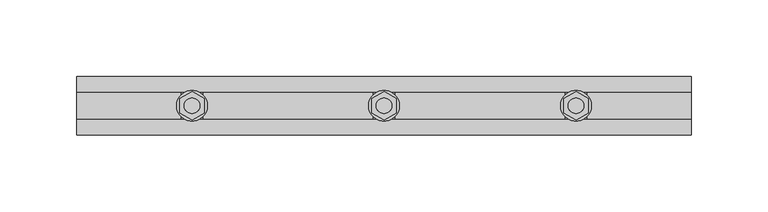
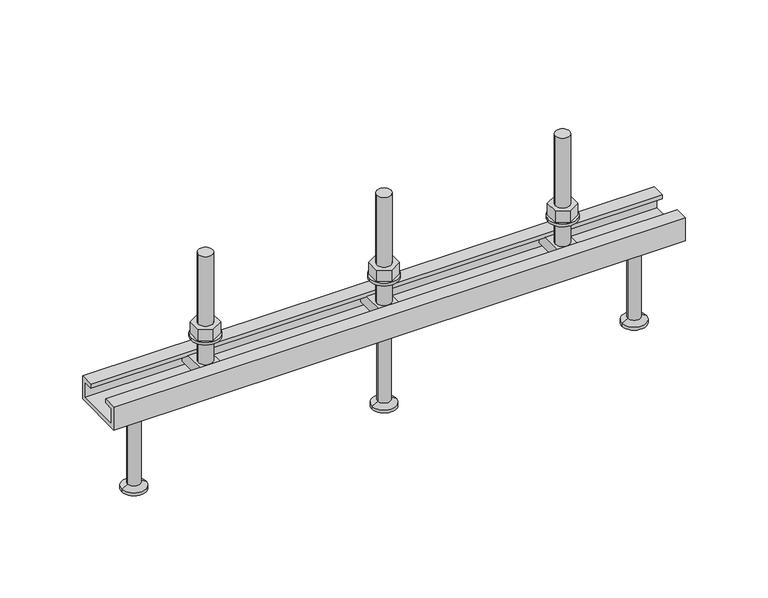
"""IFC4 building model written with IfcOpenShell, lengths in millimetres: fastener geometry, JTA-K JORDAHL® AnchorChannels : JTA-K L=400 mm."""

from ifc_helpers import new_model, si_unit, point, frame, frame_2d, origin, place, context, project, spatial, polyline, circle_curve, trimmed, segment, composite_curve, outline, extrude, source, transform, mapped, element, save
from ifc_brep_helpers import plane_surface, cylinder_surface, revolved_surface, advanced_brep


def fastener_7abe190a(model_context):
    return source(origin(), model_context, "Body", "SolidModel", [
        extrude(outline(polyline([(200.0, 9.2376043), (208.0, 4.6188022), (208.0, -4.6188022), (200.0, -9.2376043), (192.0, -4.6188022), (192.0, 4.6188022), (200.0, 9.2376043)]), holes=[composite_curve([segment(trimmed(circle_curve(frame_2d((200.0, 0.0)), 5.0), [point((195.0, 0.0))], [point((205.0, 0.0))], True, "CARTESIAN"), True, "CONTINUOUS"), segment(trimmed(circle_curve(frame_2d((200.0, 0.0)), 5.0), [point((205.0, 0.0))], [point((195.0, 0.0))], True, "CARTESIAN"), True, "CONTINUOUS")], self_intersect=False)]), frame((0.0, 0.0, 17.0), z_axis=(0.0, 0.0, 1.0), x_axis=(1.0, 0.0, 0.0)), (0.0, 0.0, 1.0), 8.4),
        extrude(outline(composite_curve([segment(trimmed(circle_curve(frame_2d((200.0, 0.0)), 10.0), [point((190.0, 0.0))], [point((210.0, 0.0))], False, "CARTESIAN"), True, "CONTINUOUS"), segment(trimmed(circle_curve(frame_2d((200.0, 0.0)), 10.0), [point((210.0, 0.0))], [point((190.0, 0.0))], False, "CARTESIAN"), True, "CONTINUOUS")], self_intersect=False), holes=[composite_curve([segment(trimmed(circle_curve(frame_2d((200.0, 0.0)), 5.25), [point((194.75, 0.0))], [point((205.25, 0.0))], True, "CARTESIAN"), True, "CONTINUOUS"), segment(trimmed(circle_curve(frame_2d((200.0, 0.0)), 5.25), [point((205.25, 0.0))], [point((194.75, 0.0))], True, "CARTESIAN"), True, "CONTINUOUS")], self_intersect=False)]), frame((0.0, 0.0, 15.0), z_axis=(0.0, 0.0, 1.0), x_axis=(1.0, 0.0, 0.0)), (0.0, 0.0, 1.0), 2.0),
        advanced_brep(
        [(207.0, 16.0, -3.0), (207.0, -16.0, -3.0), (207.0, -16.0, -11.0), (207.0, 16.0, -11.0), (193.0, 16.0, -3.0), (193.0, 16.0, -11.0), (193.0, -16.0, -11.0), (193.0, -16.0, -3.0), (205.0, 0.0, -3.0), (195.0, 0.0, -3.0), (195.0, 0.0, 77.0), (205.0, 0.0, 77.0)],
        [
            (0, 1),
            (1, 2),
            (2, 3),
            (3, 0),
            (4, 5),
            (5, 6),
            (6, 7),
            (7, 4),
            (0, 4),
            (7, 1),
            (8, 9, circle_curve(frame((200.0, 0.0, -3.0), z_axis=(0.0, 0.0, -1.0), x_axis=(1.0, 0.0, 0.0)), 5.0)),
            (9, 8, circle_curve(frame((200.0, 0.0, -3.0), z_axis=(0.0, 0.0, -1.0), x_axis=(1.0, 0.0, 0.0)), 5.0)),
            (6, 2),
            (5, 3),
            (10, 11, circle_curve(frame((200.0, 0.0, 77.0), z_axis=(0.0, 0.0, 1.0), x_axis=(1.0, 0.0, 0.0)), 5.0)),
            (11, 10, circle_curve(frame((200.0, 0.0, 77.0), z_axis=(0.0, 0.0, 1.0), x_axis=(1.0, 0.0, 0.0)), 5.0)),
            (10, 9),
            (8, 11),
        ],
        [
            plane_surface(frame((207.0, -16.0, -3.0), z_axis=(1.0, 0.0, 0.0), x_axis=(0.0, -1.0, 0.0))),
            plane_surface(frame((193.0, -16.0, -3.0), z_axis=(-1.0, 0.0, 0.0), x_axis=(0.0, 1.0, 0.0))),
            plane_surface(frame((207.0, 16.0, -3.0), z_axis=(0.0, 0.0, 1.0), x_axis=(-1.0, 0.0, 0.0))),
            plane_surface(frame((207.0, -16.0, -3.0), z_axis=(0.0, -1.0, 0.0), x_axis=(-1.0, 0.0, 0.0))),
            plane_surface(frame((207.0, -16.0, -11.0), z_axis=(0.0, 0.0, -1.0), x_axis=(-1.0, 0.0, 0.0))),
            plane_surface(frame((207.0, 16.0, -11.0), z_axis=(0.0, 1.0, 0.0), x_axis=(-1.0, 0.0, 0.0))),
            plane_surface(frame((205.0, 0.0, 77.0), z_axis=(0.0, 0.0, 1.0), x_axis=(0.0, 1.0, 0.0))),
            cylinder_surface(frame((200.0, 0.0, -3.0), z_axis=(0.0, 0.0, 1.0), x_axis=(1.0, 0.0, 0.0)), 5.0),
        ],
        [
            (0, [[1, 2, 3, 4]]),
            (1, [[5, 6, 7, 8]]),
            (2, [[-1, 9, -8, 10], [11, 12]]),
            (3, [[-2, -10, -7, 13]]),
            (4, [[-3, -13, -6, 14]]),
            (5, [[-4, -14, -5, -9]]),
            (6, [[15, 16]]),
            (7, [[-15, 17, -11, 18]]),
            (7, [[-16, -18, -12, -17]]),
        ],
    ),
        advanced_brep(
        [(200.0, 0.0, -17.0), (213.5, 0.0, -17.0), (186.5, 0.0, -17.0), (191.5, 0.0, -80.0), (208.5, 0.0, -80.0), (200.0, 0.0, -80.0), (191.5, 0.0, -78.0), (208.5, 0.0, -78.0), (195.5, 0.0, -75.6905989), (204.5, 0.0, -75.6905989), (195.5, 0.0, -19.5), (204.5, 0.0, -19.5)],
        [
            (0, 1),
            (1, 2, circle_curve(frame((200.0, 0.0, -17.0), z_axis=(0.0, 0.0, 1.0), x_axis=(1.0, 0.0, 0.0)), 13.5)),
            (2, 0),
            (2, 1, circle_curve(frame((200.0, 0.0, -17.0), z_axis=(0.0, 0.0, 1.0), x_axis=(1.0, 0.0, 0.0)), 13.5)),
            (3, 4, circle_curve(frame((200.0, 0.0, -80.0), z_axis=(0.0, 0.0, -1.0), x_axis=(1.0, 0.0, 0.0)), 8.5)),
            (4, 5),
            (5, 3),
            (4, 3, circle_curve(frame((200.0, 0.0, -80.0), z_axis=(0.0, 0.0, -1.0), x_axis=(1.0, 0.0, 0.0)), 8.5)),
            (6, 7, circle_curve(frame((200.0, 0.0, -78.0), z_axis=(0.0, 0.0, -1.0), x_axis=(1.0, 0.0, 0.0)), 8.5)),
            (7, 4),
            (3, 6),
            (7, 6, circle_curve(frame((200.0, 0.0, -78.0), z_axis=(0.0, 0.0, -1.0), x_axis=(1.0, 0.0, 0.0)), 8.5)),
            (8, 9, circle_curve(frame((200.0, 0.0, -75.6905989), z_axis=(0.0, 0.0, -1.0), x_axis=(1.0, 0.0, 0.0)), 4.5)),
            (9, 7),
            (6, 8),
            (9, 8, circle_curve(frame((200.0, 0.0, -75.6905989), z_axis=(0.0, 0.0, -1.0), x_axis=(1.0, 0.0, 0.0)), 4.5)),
            (10, 11, circle_curve(frame((200.0, 0.0, -19.5), z_axis=(0.0, 0.0, -1.0), x_axis=(1.0, 0.0, 0.0)), 4.5)),
            (11, 9),
            (8, 10),
            (11, 10, circle_curve(frame((200.0, 0.0, -19.5), z_axis=(0.0, 0.0, -1.0), x_axis=(1.0, 0.0, 0.0)), 4.5)),
            (1, 11),
            (10, 2),
        ],
        [
            plane_surface(frame((200.0, 0.0, -17.0), z_axis=(0.0, 0.0, 1.0), x_axis=(1.0, 0.0, 0.0))),
            plane_surface(frame((200.0, 0.0, -80.0), z_axis=(0.0, 0.0, -1.0), x_axis=(1.0, 0.0, 0.0))),
            cylinder_surface(frame((200.0, 0.0, 2277.3150031), z_axis=(0.0, 0.0, 1.0), x_axis=(1.0, 0.0, 0.0)), 8.5),
            revolved_surface(polyline([(208.5, 0.0, -78.0), (204.5, 0.0, -75.6905989)]), (200.0, 0.0, 2277.3150031), (0.0, 0.0, 1.0)),
            cylinder_surface(frame((200.0, 0.0, 2277.3150031), z_axis=(0.0, 0.0, 1.0), x_axis=(1.0, 0.0, 0.0)), 4.5),
            revolved_surface(polyline([(204.5, 0.0, -19.5), (213.5, 0.0, -17.0)]), (200.0, 0.0, 2277.3150031), (0.0, 0.0, 1.0)),
        ],
        [
            (0, [[1, 2, 3]]),
            (0, [[-3, 4, -1]]),
            (1, [[5, 6, 7]]),
            (1, [[8, -7, -6]]),
            (2, [[9, 10, -5, 11]]),
            (2, [[12, -11, -8, -10]]),
            (3, [[13, 14, -9, 15]]),
            (3, [[16, -15, -12, -14]]),
            (4, [[17, 18, -13, 19]]),
            (4, [[20, -19, -16, -18]]),
            (5, [[-2, 21, -17, 22]]),
            (5, [[-4, -22, -20, -21]]),
        ],
    ),
        extrude(outline(polyline([(325.0, 9.2376043), (333.0, 4.6188022), (333.0, -4.6188022), (325.0, -9.2376043), (317.0, -4.6188022), (317.0, 4.6188022), (325.0, 9.2376043)]), holes=[composite_curve([segment(trimmed(circle_curve(frame_2d((325.0, 0.0)), 5.0), [point((320.0, 0.0))], [point((330.0, 0.0))], True, "CARTESIAN"), True, "CONTINUOUS"), segment(trimmed(circle_curve(frame_2d((325.0, 0.0)), 5.0), [point((330.0, 0.0))], [point((320.0, 0.0))], True, "CARTESIAN"), True, "CONTINUOUS")], self_intersect=False)]), frame((0.0, 0.0, 17.0), z_axis=(0.0, 0.0, 1.0), x_axis=(1.0, 0.0, 0.0)), (0.0, 0.0, 1.0), 8.4),
        extrude(outline(composite_curve([segment(trimmed(circle_curve(frame_2d((325.0, 0.0)), 10.0), [point((315.0, 0.0))], [point((335.0, 0.0))], False, "CARTESIAN"), True, "CONTINUOUS"), segment(trimmed(circle_curve(frame_2d((325.0, 0.0)), 10.0), [point((335.0, 0.0))], [point((315.0, 0.0))], False, "CARTESIAN"), True, "CONTINUOUS")], self_intersect=False), holes=[composite_curve([segment(trimmed(circle_curve(frame_2d((325.0, 0.0)), 5.25), [point((319.75, 0.0))], [point((330.25, 0.0))], True, "CARTESIAN"), True, "CONTINUOUS"), segment(trimmed(circle_curve(frame_2d((325.0, 0.0)), 5.25), [point((330.25, 0.0))], [point((319.75, 0.0))], True, "CARTESIAN"), True, "CONTINUOUS")], self_intersect=False)]), frame((0.0, 0.0, 15.0), z_axis=(0.0, 0.0, 1.0), x_axis=(1.0, 0.0, 0.0)), (0.0, 0.0, 1.0), 2.0),
        extrude(outline(polyline([(75.0, 9.2376043), (83.0, 4.6188022), (83.0, -4.6188022), (75.0, -9.2376043), (67.0, -4.6188022), (67.0, 4.6188022), (75.0, 9.2376043)]), holes=[composite_curve([segment(trimmed(circle_curve(frame_2d((75.0, 0.0)), 5.0), [point((70.0, 0.0))], [point((80.0, 0.0))], True, "CARTESIAN"), True, "CONTINUOUS"), segment(trimmed(circle_curve(frame_2d((75.0, 0.0)), 5.0), [point((80.0, 0.0))], [point((70.0, 0.0))], True, "CARTESIAN"), True, "CONTINUOUS")], self_intersect=False)]), frame((0.0, 0.0, 17.0), z_axis=(0.0, 0.0, 1.0), x_axis=(1.0, 0.0, 0.0)), (0.0, 0.0, 1.0), 8.4),
        extrude(outline(composite_curve([segment(trimmed(circle_curve(frame_2d((75.0, 0.0)), 10.0), [point((65.0, 0.0))], [point((85.0, 0.0))], False, "CARTESIAN"), True, "CONTINUOUS"), segment(trimmed(circle_curve(frame_2d((75.0, 0.0)), 10.0), [point((85.0, 0.0))], [point((65.0, 0.0))], False, "CARTESIAN"), True, "CONTINUOUS")], self_intersect=False), holes=[composite_curve([segment(trimmed(circle_curve(frame_2d((75.0, 0.0)), 5.25), [point((69.75, 0.0))], [point((80.25, 0.0))], True, "CARTESIAN"), True, "CONTINUOUS"), segment(trimmed(circle_curve(frame_2d((75.0, 0.0)), 5.25), [point((80.25, 0.0))], [point((69.75, 0.0))], True, "CARTESIAN"), True, "CONTINUOUS")], self_intersect=False)]), frame((0.0, 0.0, 15.0), z_axis=(0.0, 0.0, 1.0), x_axis=(1.0, 0.0, 0.0)), (0.0, 0.0, 1.0), 2.0),
        advanced_brep(
        [(332.0, 16.0, -3.0), (332.0, -16.0, -3.0), (332.0, -16.0, -11.0), (332.0, 16.0, -11.0), (318.0, 16.0, -3.0), (318.0, 16.0, -11.0), (318.0, -16.0, -11.0), (318.0, -16.0, -3.0), (330.0, 0.0, -3.0), (320.0, 0.0, -3.0), (320.0, 0.0, 77.0), (330.0, 0.0, 77.0)],
        [
            (0, 1),
            (1, 2),
            (2, 3),
            (3, 0),
            (4, 5),
            (5, 6),
            (6, 7),
            (7, 4),
            (0, 4),
            (7, 1),
            (8, 9, circle_curve(frame((325.0, 0.0, -3.0), z_axis=(0.0, 0.0, -1.0), x_axis=(1.0, 0.0, 0.0)), 5.0)),
            (9, 8, circle_curve(frame((325.0, 0.0, -3.0), z_axis=(0.0, 0.0, -1.0), x_axis=(1.0, 0.0, 0.0)), 5.0)),
            (6, 2),
            (5, 3),
            (10, 11, circle_curve(frame((325.0, 0.0, 77.0), z_axis=(0.0, 0.0, 1.0), x_axis=(1.0, 0.0, 0.0)), 5.0)),
            (11, 10, circle_curve(frame((325.0, 0.0, 77.0), z_axis=(0.0, 0.0, 1.0), x_axis=(1.0, 0.0, 0.0)), 5.0)),
            (10, 9),
            (8, 11),
        ],
        [
            plane_surface(frame((332.0, -16.0, -3.0), z_axis=(1.0, 0.0, 0.0), x_axis=(0.0, -1.0, 0.0))),
            plane_surface(frame((318.0, -16.0, -3.0), z_axis=(-1.0, 0.0, 0.0), x_axis=(0.0, 1.0, 0.0))),
            plane_surface(frame((332.0, 16.0, -3.0), z_axis=(0.0, 0.0, 1.0), x_axis=(-1.0, 0.0, 0.0))),
            plane_surface(frame((332.0, -16.0, -3.0), z_axis=(0.0, -1.0, 0.0), x_axis=(-1.0, 0.0, 0.0))),
            plane_surface(frame((332.0, -16.0, -11.0), z_axis=(0.0, 0.0, -1.0), x_axis=(-1.0, 0.0, 0.0))),
            plane_surface(frame((332.0, 16.0, -11.0), z_axis=(0.0, 1.0, 0.0), x_axis=(-1.0, 0.0, 0.0))),
            plane_surface(frame((330.0, 0.0, 77.0), z_axis=(0.0, 0.0, 1.0), x_axis=(0.0, 1.0, 0.0))),
            cylinder_surface(frame((325.0, 0.0, -3.0), z_axis=(0.0, 0.0, 1.0), x_axis=(1.0, 0.0, 0.0)), 5.0),
        ],
        [
            (0, [[1, 2, 3, 4]]),
            (1, [[5, 6, 7, 8]]),
            (2, [[-1, 9, -8, 10], [11, 12]]),
            (3, [[-2, -10, -7, 13]]),
            (4, [[-3, -13, -6, 14]]),
            (5, [[-4, -14, -5, -9]]),
            (6, [[15, 16]]),
            (7, [[-15, 17, -11, 18]]),
            (7, [[-16, -18, -12, -17]]),
        ],
    ),
        advanced_brep(
        [(82.0, 16.0, -3.0), (82.0, -16.0, -3.0), (82.0, -16.0, -11.0), (82.0, 16.0, -11.0), (68.0, 16.0, -3.0), (68.0, 16.0, -11.0), (68.0, -16.0, -11.0), (68.0, -16.0, -3.0), (80.0, 0.0, -3.0), (70.0, 0.0, -3.0), (70.0, 0.0, 77.0), (80.0, 0.0, 77.0)],
        [
            (0, 1),
            (1, 2),
            (2, 3),
            (3, 0),
            (4, 5),
            (5, 6),
            (6, 7),
            (7, 4),
            (0, 4),
            (7, 1),
            (8, 9, circle_curve(frame((75.0, 0.0, -3.0), z_axis=(0.0, 0.0, -1.0), x_axis=(1.0, 0.0, 0.0)), 5.0)),
            (9, 8, circle_curve(frame((75.0, 0.0, -3.0), z_axis=(0.0, 0.0, -1.0), x_axis=(1.0, 0.0, 0.0)), 5.0)),
            (6, 2),
            (5, 3),
            (10, 11, circle_curve(frame((75.0, 0.0, 77.0), z_axis=(0.0, 0.0, 1.0), x_axis=(1.0, 0.0, 0.0)), 5.0)),
            (11, 10, circle_curve(frame((75.0, 0.0, 77.0), z_axis=(0.0, 0.0, 1.0), x_axis=(1.0, 0.0, 0.0)), 5.0)),
            (10, 9),
            (8, 11),
        ],
        [
            plane_surface(frame((82.0, -16.0, -3.0), z_axis=(1.0, 0.0, 0.0), x_axis=(0.0, -1.0, 0.0))),
            plane_surface(frame((68.0, -16.0, -3.0), z_axis=(-1.0, 0.0, 0.0), x_axis=(0.0, 1.0, 0.0))),
            plane_surface(frame((82.0, 16.0, -3.0), z_axis=(0.0, 0.0, 1.0), x_axis=(-1.0, 0.0, 0.0))),
            plane_surface(frame((82.0, -16.0, -3.0), z_axis=(0.0, -1.0, 0.0), x_axis=(-1.0, 0.0, 0.0))),
            plane_surface(frame((82.0, -16.0, -11.0), z_axis=(0.0, 0.0, -1.0), x_axis=(-1.0, 0.0, 0.0))),
            plane_surface(frame((82.0, 16.0, -11.0), z_axis=(0.0, 1.0, 0.0), x_axis=(-1.0, 0.0, 0.0))),
            plane_surface(frame((80.0, 0.0, 77.0), z_axis=(0.0, 0.0, 1.0), x_axis=(0.0, 1.0, 0.0))),
            cylinder_surface(frame((75.0, 0.0, -3.0), z_axis=(0.0, 0.0, 1.0), x_axis=(1.0, 0.0, 0.0)), 5.0),
        ],
        [
            (0, [[1, 2, 3, 4]]),
            (1, [[5, 6, 7, 8]]),
            (2, [[-1, 9, -8, 10], [11, 12]]),
            (3, [[-2, -10, -7, 13]]),
            (4, [[-3, -13, -6, 14]]),
            (5, [[-4, -14, -5, -9]]),
            (6, [[15, 16]]),
            (7, [[-15, 17, -11, 18]]),
            (7, [[-16, -18, -12, -17]]),
        ],
    ),
        advanced_brep(
        [(375.0, 0.0, -17.0), (388.5, 0.0, -17.0), (361.5, 0.0, -17.0), (366.5, 0.0, -80.0), (383.5, 0.0, -80.0), (375.0, 0.0, -80.0), (366.5, 0.0, -78.0), (383.5, 0.0, -78.0), (370.5, 0.0, -75.6905989), (379.5, 0.0, -75.6905989), (370.5, 0.0, -19.5), (379.5, 0.0, -19.5)],
        [
            (0, 1),
            (1, 2, circle_curve(frame((375.0, 0.0, -17.0), z_axis=(0.0, 0.0, 1.0), x_axis=(1.0, 0.0, 0.0)), 13.5)),
            (2, 0),
            (2, 1, circle_curve(frame((375.0, 0.0, -17.0), z_axis=(0.0, 0.0, 1.0), x_axis=(1.0, 0.0, 0.0)), 13.5)),
            (3, 4, circle_curve(frame((375.0, 0.0, -80.0), z_axis=(0.0, 0.0, -1.0), x_axis=(1.0, 0.0, 0.0)), 8.5)),
            (4, 5),
            (5, 3),
            (4, 3, circle_curve(frame((375.0, 0.0, -80.0), z_axis=(0.0, 0.0, -1.0), x_axis=(1.0, 0.0, 0.0)), 8.5)),
            (6, 7, circle_curve(frame((375.0, 0.0, -78.0), z_axis=(0.0, 0.0, -1.0), x_axis=(1.0, 0.0, 0.0)), 8.5)),
            (7, 4),
            (3, 6),
            (7, 6, circle_curve(frame((375.0, 0.0, -78.0), z_axis=(0.0, 0.0, -1.0), x_axis=(1.0, 0.0, 0.0)), 8.5)),
            (8, 9, circle_curve(frame((375.0, 0.0, -75.6905989), z_axis=(0.0, 0.0, -1.0), x_axis=(1.0, 0.0, 0.0)), 4.5)),
            (9, 7),
            (6, 8),
            (9, 8, circle_curve(frame((375.0, 0.0, -75.6905989), z_axis=(0.0, 0.0, -1.0), x_axis=(1.0, 0.0, 0.0)), 4.5)),
            (10, 11, circle_curve(frame((375.0, 0.0, -19.5), z_axis=(0.0, 0.0, -1.0), x_axis=(1.0, 0.0, 0.0)), 4.5)),
            (11, 9),
            (8, 10),
            (11, 10, circle_curve(frame((375.0, 0.0, -19.5), z_axis=(0.0, 0.0, -1.0), x_axis=(1.0, 0.0, 0.0)), 4.5)),
            (1, 11),
            (10, 2),
        ],
        [
            plane_surface(frame((375.0, 0.0, -17.0), z_axis=(0.0, 0.0, 1.0), x_axis=(1.0, 0.0, 0.0))),
            plane_surface(frame((375.0, 0.0, -80.0), z_axis=(0.0, 0.0, -1.0), x_axis=(1.0, 0.0, 0.0))),
            cylinder_surface(frame((375.0, 0.0, 2277.3150031), z_axis=(0.0, 0.0, 1.0), x_axis=(1.0, 0.0, 0.0)), 8.5),
            revolved_surface(polyline([(383.5, 0.0, -78.0), (379.5, 0.0, -75.6905989)]), (375.0, 0.0, 2277.3150031), (0.0, 0.0, 1.0)),
            cylinder_surface(frame((375.0, 0.0, 2277.3150031), z_axis=(0.0, 0.0, 1.0), x_axis=(1.0, 0.0, 0.0)), 4.5),
            revolved_surface(polyline([(379.5, 0.0, -19.5), (388.5, 0.0, -17.0)]), (375.0, 0.0, 2277.3150031), (0.0, 0.0, 1.0)),
        ],
        [
            (0, [[1, 2, 3]]),
            (0, [[-3, 4, -1]]),
            (1, [[5, 6, 7]]),
            (1, [[8, -7, -6]]),
            (2, [[9, 10, -5, 11]]),
            (2, [[12, -11, -8, -10]]),
            (3, [[13, 14, -9, 15]]),
            (3, [[16, -15, -12, -14]]),
            (4, [[17, 18, -13, 19]]),
            (4, [[20, -19, -16, -18]]),
            (5, [[-2, 21, -17, 22]]),
            (5, [[-4, -22, -20, -21]]),
        ],
    ),
        advanced_brep(
        [(25.0, 0.0, -17.0), (38.5, 0.0, -17.0), (11.5, 0.0, -17.0), (16.5, 0.0, -80.0), (33.5, 0.0, -80.0), (25.0, 0.0, -80.0), (16.5, 0.0, -78.0), (33.5, 0.0, -78.0), (20.5, 0.0, -75.6905989), (29.5, 0.0, -75.6905989), (20.5, 0.0, -19.5), (29.5, 0.0, -19.5)],
        [
            (0, 1),
            (1, 2, circle_curve(frame((25.0, 0.0, -17.0), z_axis=(0.0, 0.0, 1.0), x_axis=(1.0, 0.0, 0.0)), 13.5)),
            (2, 0),
            (2, 1, circle_curve(frame((25.0, 0.0, -17.0), z_axis=(0.0, 0.0, 1.0), x_axis=(1.0, 0.0, 0.0)), 13.5)),
            (3, 4, circle_curve(frame((25.0, 0.0, -80.0), z_axis=(0.0, 0.0, -1.0), x_axis=(1.0, 0.0, 0.0)), 8.5)),
            (4, 5),
            (5, 3),
            (4, 3, circle_curve(frame((25.0, 0.0, -80.0), z_axis=(0.0, 0.0, -1.0), x_axis=(1.0, 0.0, 0.0)), 8.5)),
            (6, 7, circle_curve(frame((25.0, 0.0, -78.0), z_axis=(0.0, 0.0, -1.0), x_axis=(1.0, 0.0, 0.0)), 8.5)),
            (7, 4),
            (3, 6),
            (7, 6, circle_curve(frame((25.0, 0.0, -78.0), z_axis=(0.0, 0.0, -1.0), x_axis=(1.0, 0.0, 0.0)), 8.5)),
            (8, 9, circle_curve(frame((25.0, 0.0, -75.6905989), z_axis=(0.0, 0.0, -1.0), x_axis=(1.0, 0.0, 0.0)), 4.5)),
            (9, 7),
            (6, 8),
            (9, 8, circle_curve(frame((25.0, 0.0, -75.6905989), z_axis=(0.0, 0.0, -1.0), x_axis=(1.0, 0.0, 0.0)), 4.5)),
            (10, 11, circle_curve(frame((25.0, 0.0, -19.5), z_axis=(0.0, 0.0, -1.0), x_axis=(1.0, 0.0, 0.0)), 4.5)),
            (11, 9),
            (8, 10),
            (11, 10, circle_curve(frame((25.0, 0.0, -19.5), z_axis=(0.0, 0.0, -1.0), x_axis=(1.0, 0.0, 0.0)), 4.5)),
            (1, 11),
            (10, 2),
        ],
        [
            plane_surface(frame((25.0, 0.0, -17.0), z_axis=(0.0, 0.0, 1.0), x_axis=(1.0, 0.0, 0.0))),
            plane_surface(frame((25.0, 0.0, -80.0), z_axis=(0.0, 0.0, -1.0), x_axis=(1.0, 0.0, 0.0))),
            cylinder_surface(frame((25.0, 0.0, 2277.3150031), z_axis=(0.0, 0.0, 1.0), x_axis=(1.0, 0.0, 0.0)), 8.5),
            revolved_surface(polyline([(33.5, 0.0, -78.0), (29.5, 0.0, -75.6905989)]), (25.0, 0.0, 2277.3150031), (0.0, 0.0, 1.0)),
            cylinder_surface(frame((25.0, 0.0, 2277.3150031), z_axis=(0.0, 0.0, 1.0), x_axis=(1.0, 0.0, 0.0)), 4.5),
            revolved_surface(polyline([(29.5, 0.0, -19.5), (38.5, 0.0, -17.0)]), (25.0, 0.0, 2277.3150031), (0.0, 0.0, 1.0)),
        ],
        [
            (0, [[1, 2, 3]]),
            (0, [[-3, 4, -1]]),
            (1, [[5, 6, 7]]),
            (1, [[8, -7, -6]]),
            (2, [[9, 10, -5, 11]]),
            (2, [[12, -11, -8, -10]]),
            (3, [[13, 14, -9, 15]]),
            (3, [[16, -15, -12, -14]]),
            (4, [[17, 18, -13, 19]]),
            (4, [[20, -19, -16, -18]]),
            (5, [[-2, 21, -17, 22]]),
            (5, [[-4, -22, -20, -21]]),
        ],
    ),
        extrude(outline(polyline([(19.0, 0.0), (19.0, -17.0), (-19.0, -17.0), (-19.0, 0.0), (-9.0, 0.0), (-9.0, -3.0), (-16.0, -3.0), (-16.0, -14.0), (16.0, -14.0), (16.0, -3.0), (9.0, -3.0), (9.0, 0.0), (19.0, 0.0)])), frame((0.0, 0.0, 0.0), z_axis=(1.0, 0.0, 0.0), x_axis=(0.0, 1.0, 0.0)), (0.0, 0.0, 1.0), 400.0),
    ])


if __name__ == "__main__":
    model = new_model("IFC4")
    model_context = context("Model", 3, world=origin())
    ifc_project = project(units=[si_unit("LENGTHUNIT", "METRE", prefix="MILLI")], contexts=[model_context])
    site = spatial("IfcSite", under=ifc_project)
    building = spatial("IfcBuilding", under=site)
    placement = place(None, origin())
    fastener_shape = fastener_7abe190a(model_context)
    element("IfcFastener", 1, ObjectType="JTA-K JORDAHL® AnchorChannels : JTA-K L=400 mm", at=placement, inside=building, context=model_context, shape_type="MappedRepresentation", body=[
        mapped(fastener_shape, transform((0.0, 0.0, 0.0), x_axis=(1.0, 0.0, 0.0), y_axis=(0.0, 1.0, 0.0), z_axis=(0.0, 0.0, 1.0))),
    ])
    save(model, "model.ifc")
